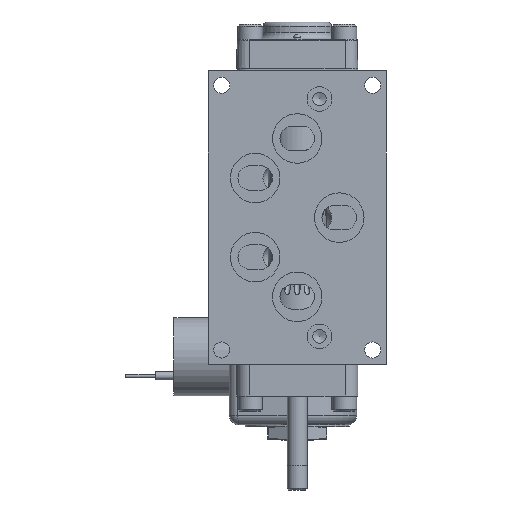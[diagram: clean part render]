
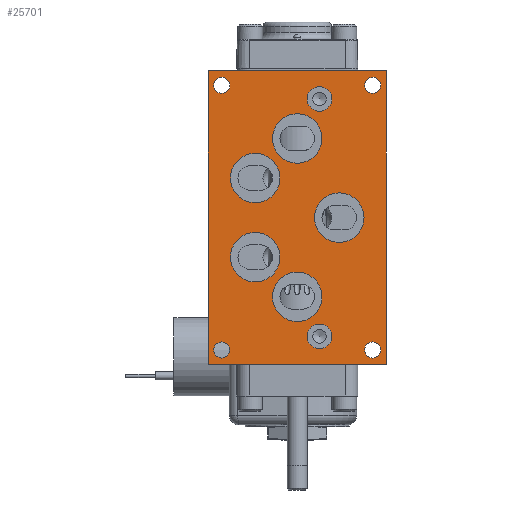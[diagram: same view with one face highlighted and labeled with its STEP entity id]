
A CAD part, front view. The second image highlights one B-rep face of the part: STEP entity #25701.
In plain terms, the highlighted planar face has unit normal (0, -1, 0).
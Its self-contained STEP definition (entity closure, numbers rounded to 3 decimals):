
#860=FACE_BOUND('',#7110,.T.);
#861=FACE_BOUND('',#7111,.T.);
#862=FACE_BOUND('',#7112,.T.);
#863=FACE_BOUND('',#7113,.T.);
#864=FACE_BOUND('',#7114,.T.);
#865=FACE_BOUND('',#7115,.T.);
#866=FACE_BOUND('',#7116,.T.);
#867=FACE_BOUND('',#7117,.T.);
#868=FACE_BOUND('',#7118,.T.);
#869=FACE_BOUND('',#7119,.T.);
#870=FACE_BOUND('',#7120,.T.);
#2018=LINE('',#41612,#3696);
#2032=LINE('',#41662,#3710);
#2058=LINE('',#41998,#3736);
#2059=LINE('',#41999,#3737);
#3696=VECTOR('',#31985,1.);
#3710=VECTOR('',#32023,1.);
#3736=VECTOR('',#32161,1.);
#3737=VECTOR('',#32162,1.);
#5519=FACE_OUTER_BOUND('',#7109,.T.);
#7109=EDGE_LOOP('',(#18308,#18309,#18310,#18311));
#7110=EDGE_LOOP('',(#18312,#18313));
#7111=EDGE_LOOP('',(#18314,#18315));
#7112=EDGE_LOOP('',(#18316,#18317));
#7113=EDGE_LOOP('',(#18318,#18319));
#7114=EDGE_LOOP('',(#18320,#18321));
#7115=EDGE_LOOP('',(#18322,#18323));
#7116=EDGE_LOOP('',(#18324,#18325));
#7117=EDGE_LOOP('',(#18326));
#7118=EDGE_LOOP('',(#18327));
#7119=EDGE_LOOP('',(#18328));
#7120=EDGE_LOOP('',(#18329));
#8742=CIRCLE('',#27670,0.396);
#8743=CIRCLE('',#27671,0.396);
#8744=CIRCLE('',#27672,0.396);
#8745=CIRCLE('',#27673,0.396);
#8746=CIRCLE('',#27674,0.794);
#8747=CIRCLE('',#27675,0.794);
#8748=CIRCLE('',#27676,0.794);
#8749=CIRCLE('',#27677,0.794);
#8750=CIRCLE('',#27678,0.794);
#8751=CIRCLE('',#27679,0.794);
#8752=CIRCLE('',#27680,0.794);
#8753=CIRCLE('',#27681,0.794);
#8754=CIRCLE('',#27682,0.794);
#8755=CIRCLE('',#27683,0.794);
#8756=CIRCLE('',#27684,0.258);
#8757=CIRCLE('',#27685,0.258);
#8758=CIRCLE('',#27686,0.258);
#8759=CIRCLE('',#27687,0.258);
#10598=VERTEX_POINT('',#41608);
#10600=VERTEX_POINT('',#41611);
#10622=VERTEX_POINT('',#41658);
#10624=VERTEX_POINT('',#41661);
#10676=VERTEX_POINT('',#42000);
#10677=VERTEX_POINT('',#42001);
#10678=VERTEX_POINT('',#42004);
#10679=VERTEX_POINT('',#42005);
#10680=VERTEX_POINT('',#42008);
#10681=VERTEX_POINT('',#42009);
#10682=VERTEX_POINT('',#42012);
#10683=VERTEX_POINT('',#42013);
#10684=VERTEX_POINT('',#42016);
#10685=VERTEX_POINT('',#42017);
#10686=VERTEX_POINT('',#42020);
#10687=VERTEX_POINT('',#42021);
#10688=VERTEX_POINT('',#42024);
#10689=VERTEX_POINT('',#42025);
#10690=VERTEX_POINT('',#42028);
#10691=VERTEX_POINT('',#42030);
#10692=VERTEX_POINT('',#42032);
#10693=VERTEX_POINT('',#42034);
#13386=EDGE_CURVE('',#10600,#10598,#2018,.T.);
#13410=EDGE_CURVE('',#10624,#10622,#2032,.T.);
#13483=EDGE_CURVE('',#10598,#10624,#2058,.T.);
#13484=EDGE_CURVE('',#10622,#10600,#2059,.T.);
#13485=EDGE_CURVE('',#10676,#10677,#8742,.T.);
#13486=EDGE_CURVE('',#10677,#10676,#8743,.T.);
#13487=EDGE_CURVE('',#10678,#10679,#8744,.T.);
#13488=EDGE_CURVE('',#10679,#10678,#8745,.T.);
#13489=EDGE_CURVE('',#10680,#10681,#8746,.T.);
#13490=EDGE_CURVE('',#10681,#10680,#8747,.T.);
#13491=EDGE_CURVE('',#10682,#10683,#8748,.T.);
#13492=EDGE_CURVE('',#10683,#10682,#8749,.T.);
#13493=EDGE_CURVE('',#10684,#10685,#8750,.T.);
#13494=EDGE_CURVE('',#10685,#10684,#8751,.T.);
#13495=EDGE_CURVE('',#10686,#10687,#8752,.T.);
#13496=EDGE_CURVE('',#10687,#10686,#8753,.T.);
#13497=EDGE_CURVE('',#10688,#10689,#8754,.T.);
#13498=EDGE_CURVE('',#10689,#10688,#8755,.T.);
#13499=EDGE_CURVE('',#10690,#10690,#8756,.T.);
#13500=EDGE_CURVE('',#10691,#10691,#8757,.T.);
#13501=EDGE_CURVE('',#10692,#10692,#8758,.T.);
#13502=EDGE_CURVE('',#10693,#10693,#8759,.T.);
#18308=ORIENTED_EDGE('',*,*,#13386,.T.);
#18309=ORIENTED_EDGE('',*,*,#13483,.T.);
#18310=ORIENTED_EDGE('',*,*,#13410,.T.);
#18311=ORIENTED_EDGE('',*,*,#13484,.T.);
#18312=ORIENTED_EDGE('',*,*,#13485,.T.);
#18313=ORIENTED_EDGE('',*,*,#13486,.T.);
#18314=ORIENTED_EDGE('',*,*,#13487,.T.);
#18315=ORIENTED_EDGE('',*,*,#13488,.T.);
#18316=ORIENTED_EDGE('',*,*,#13489,.T.);
#18317=ORIENTED_EDGE('',*,*,#13490,.T.);
#18318=ORIENTED_EDGE('',*,*,#13491,.T.);
#18319=ORIENTED_EDGE('',*,*,#13492,.T.);
#18320=ORIENTED_EDGE('',*,*,#13493,.T.);
#18321=ORIENTED_EDGE('',*,*,#13494,.T.);
#18322=ORIENTED_EDGE('',*,*,#13495,.T.);
#18323=ORIENTED_EDGE('',*,*,#13496,.T.);
#18324=ORIENTED_EDGE('',*,*,#13497,.T.);
#18325=ORIENTED_EDGE('',*,*,#13498,.T.);
#18326=ORIENTED_EDGE('',*,*,#13499,.T.);
#18327=ORIENTED_EDGE('',*,*,#13500,.T.);
#18328=ORIENTED_EDGE('',*,*,#13501,.T.);
#18329=ORIENTED_EDGE('',*,*,#13502,.T.);
#23600=PLANE('',#27669);
#25701=ADVANCED_FACE('',(#5519,#860,#861,#862,#863,#864,#865,#866,#867,
#868,#869,#870),#23600,.T.);
#27669=AXIS2_PLACEMENT_3D('',#41997,#32159,#32160);
#27670=AXIS2_PLACEMENT_3D('',#42002,#32163,#32164);
#27671=AXIS2_PLACEMENT_3D('',#42003,#32165,#32166);
#27672=AXIS2_PLACEMENT_3D('',#42006,#32167,#32168);
#27673=AXIS2_PLACEMENT_3D('',#42007,#32169,#32170);
#27674=AXIS2_PLACEMENT_3D('',#42010,#32171,#32172);
#27675=AXIS2_PLACEMENT_3D('',#42011,#32173,#32174);
#27676=AXIS2_PLACEMENT_3D('',#42014,#32175,#32176);
#27677=AXIS2_PLACEMENT_3D('',#42015,#32177,#32178);
#27678=AXIS2_PLACEMENT_3D('',#42018,#32179,#32180);
#27679=AXIS2_PLACEMENT_3D('',#42019,#32181,#32182);
#27680=AXIS2_PLACEMENT_3D('',#42022,#32183,#32184);
#27681=AXIS2_PLACEMENT_3D('',#42023,#32185,#32186);
#27682=AXIS2_PLACEMENT_3D('',#42026,#32187,#32188);
#27683=AXIS2_PLACEMENT_3D('',#42027,#32189,#32190);
#27684=AXIS2_PLACEMENT_3D('',#42029,#32191,#32192);
#27685=AXIS2_PLACEMENT_3D('',#42031,#32193,#32194);
#27686=AXIS2_PLACEMENT_3D('',#42033,#32195,#32196);
#27687=AXIS2_PLACEMENT_3D('',#42035,#32197,#32198);
#31985=DIRECTION('',(-1.,0.,0.));
#32023=DIRECTION('',(1.,0.,0.));
#32159=DIRECTION('center_axis',(0.,-1.,0.));
#32160=DIRECTION('ref_axis',(0.,0.,-1.));
#32161=DIRECTION('',(0.,0.,-1.));
#32162=DIRECTION('',(0.,0.,1.));
#32163=DIRECTION('center_axis',(0.,1.,0.));
#32164=DIRECTION('ref_axis',(1.,0.,0.));
#32165=DIRECTION('center_axis',(0.,1.,0.));
#32166=DIRECTION('ref_axis',(1.,0.,0.));
#32167=DIRECTION('center_axis',(0.,1.,0.));
#32168=DIRECTION('ref_axis',(1.,0.,0.));
#32169=DIRECTION('center_axis',(0.,1.,0.));
#32170=DIRECTION('ref_axis',(1.,0.,0.));
#32171=DIRECTION('center_axis',(0.,1.,0.));
#32172=DIRECTION('ref_axis',(1.,0.,0.));
#32173=DIRECTION('center_axis',(0.,1.,0.));
#32174=DIRECTION('ref_axis',(1.,0.,0.));
#32175=DIRECTION('center_axis',(0.,1.,0.));
#32176=DIRECTION('ref_axis',(1.,0.,0.));
#32177=DIRECTION('center_axis',(0.,1.,0.));
#32178=DIRECTION('ref_axis',(1.,0.,0.));
#32179=DIRECTION('center_axis',(0.,1.,0.));
#32180=DIRECTION('ref_axis',(1.,0.,0.));
#32181=DIRECTION('center_axis',(0.,1.,0.));
#32182=DIRECTION('ref_axis',(1.,0.,0.));
#32183=DIRECTION('center_axis',(0.,1.,0.));
#32184=DIRECTION('ref_axis',(1.,0.,0.));
#32185=DIRECTION('center_axis',(0.,1.,0.));
#32186=DIRECTION('ref_axis',(1.,0.,0.));
#32187=DIRECTION('center_axis',(0.,1.,0.));
#32188=DIRECTION('ref_axis',(1.,0.,0.));
#32189=DIRECTION('center_axis',(0.,1.,0.));
#32190=DIRECTION('ref_axis',(1.,0.,0.));
#32191=DIRECTION('center_axis',(0.,1.,0.));
#32192=DIRECTION('ref_axis',(1.,0.,0.));
#32193=DIRECTION('center_axis',(0.,1.,0.));
#32194=DIRECTION('ref_axis',(1.,0.,0.));
#32195=DIRECTION('center_axis',(0.,1.,0.));
#32196=DIRECTION('ref_axis',(1.,0.,0.));
#32197=DIRECTION('center_axis',(0.,1.,0.));
#32198=DIRECTION('ref_axis',(1.,0.,0.));
#41608=CARTESIAN_POINT('',(-2.858,-1.636,4.71));
#41611=CARTESIAN_POINT('',(2.858,-1.636,4.71));
#41612=CARTESIAN_POINT('',(-2.858,-1.636,4.71));
#41658=CARTESIAN_POINT('',(2.858,-1.636,-4.71));
#41661=CARTESIAN_POINT('',(-2.858,-1.636,-4.71));
#41662=CARTESIAN_POINT('',(-2.858,-1.636,-4.71));
#41997=CARTESIAN_POINT('Origin',(2.858,-1.636,0.));
#41998=CARTESIAN_POINT('',(-2.858,-1.636,0.));
#41999=CARTESIAN_POINT('',(2.858,-1.636,0.));
#42000=CARTESIAN_POINT('',(1.11,-1.636,-3.81));
#42001=CARTESIAN_POINT('',(0.318,-1.636,-3.81));
#42002=CARTESIAN_POINT('Origin',(0.714,-1.636,-3.81));
#42003=CARTESIAN_POINT('Origin',(0.714,-1.636,-3.81));
#42004=CARTESIAN_POINT('',(1.11,-1.636,3.81));
#42005=CARTESIAN_POINT('',(0.318,-1.636,3.81));
#42006=CARTESIAN_POINT('Origin',(0.714,-1.636,3.81));
#42007=CARTESIAN_POINT('Origin',(0.714,-1.636,3.81));
#42008=CARTESIAN_POINT('',(2.142,-1.636,0.));
#42009=CARTESIAN_POINT('',(0.555,-1.636,0.));
#42010=CARTESIAN_POINT('Origin',(1.349,-1.636,0.));
#42011=CARTESIAN_POINT('Origin',(1.349,-1.636,0.));
#42012=CARTESIAN_POINT('',(0.794,-1.636,-2.54));
#42013=CARTESIAN_POINT('',(-0.794,-1.636,-2.54));
#42014=CARTESIAN_POINT('Origin',(0.,-1.636,-2.54));
#42015=CARTESIAN_POINT('Origin',(0.,-1.636,-2.54));
#42016=CARTESIAN_POINT('',(0.794,-1.636,2.54));
#42017=CARTESIAN_POINT('',(-0.794,-1.636,2.54));
#42018=CARTESIAN_POINT('Origin',(0.,-1.636,2.54));
#42019=CARTESIAN_POINT('Origin',(0.,-1.636,2.54));
#42020=CARTESIAN_POINT('',(-0.555,-1.636,-1.27));
#42021=CARTESIAN_POINT('',(-2.142,-1.636,-1.27));
#42022=CARTESIAN_POINT('Origin',(-1.349,-1.636,-1.27));
#42023=CARTESIAN_POINT('Origin',(-1.349,-1.636,-1.27));
#42024=CARTESIAN_POINT('',(-0.555,-1.636,1.27));
#42025=CARTESIAN_POINT('',(-2.142,-1.636,1.27));
#42026=CARTESIAN_POINT('Origin',(-1.349,-1.636,1.27));
#42027=CARTESIAN_POINT('Origin',(-1.349,-1.636,1.27));
#42028=CARTESIAN_POINT('',(-2.679,-1.636,4.247));
#42029=CARTESIAN_POINT('Origin',(-2.421,-1.636,4.247));
#42030=CARTESIAN_POINT('',(2.163,-1.636,4.247));
#42031=CARTESIAN_POINT('Origin',(2.421,-1.636,4.247));
#42032=CARTESIAN_POINT('',(2.163,-1.636,-4.247));
#42033=CARTESIAN_POINT('Origin',(2.421,-1.636,-4.247));
#42034=CARTESIAN_POINT('',(-2.679,-1.636,-4.247));
#42035=CARTESIAN_POINT('Origin',(-2.421,-1.636,-4.247));
